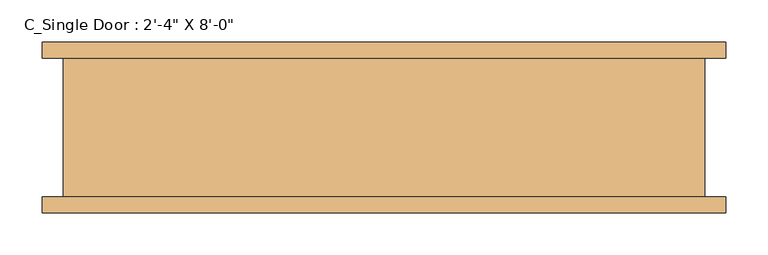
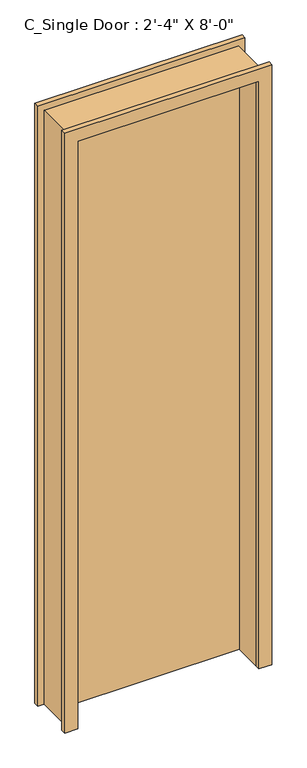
"""IFC4 building model written with IfcOpenShell, lengths in millimetres: door geometry."""

from ifc_helpers import new_model, si_unit, frame, origin, origin_with_axes, place, context, project, spatial, polyline, outline, extrude, source, transform, mapped, element, save


def door_b1a27719(model_context):
    return source(origin(), model_context, "Body", "SweptSolid", [
        extrude(outline(polyline([(355.6, 82.55), (355.6, 31.75), (-355.6, 31.75), (-355.6, 82.55), (355.6, 82.55)])), origin_with_axes(), (0.0, 0.0, 1.0), 2438.4),
        extrude(outline(polyline([(2438.4, -355.6), (2438.4, 355.6), (0.0, 355.6), (0.0, 406.4), (2489.2, 406.4), (2489.2, -406.4), (0.0, -406.4), (0.0, -355.6), (2438.4, -355.6)])), frame((0.0, 82.55, 0.0), z_axis=(0.0, 1.0, 0.0), x_axis=(0.0, 0.0, 1.0)), (0.0, 0.0, 1.0), 19.05),
        extrude(outline(polyline([(2438.4, -355.6), (2438.4, 355.6), (0.0, 355.6), (0.0, 406.4), (2489.2, 406.4), (2489.2, -406.4), (0.0, -406.4), (0.0, -355.6), (2438.4, -355.6)])), frame((0.0, -101.6, 0.0), z_axis=(0.0, 1.0, 0.0), x_axis=(0.0, 0.0, 1.0)), (0.0, 0.0, 1.0), 19.05),
        extrude(outline(polyline([(0.0, -355.6), (2438.4, -355.6), (2438.4, 355.6), (0.0, 355.6), (0.0, 381.0), (2463.8, 381.0), (2463.8, -381.0), (0.0, -381.0), (0.0, -355.6)])), frame((0.0, -82.55, 0.0), z_axis=(0.0, 1.0, 0.0), x_axis=(0.0, 0.0, 1.0)), (0.0, 0.0, 1.0), 165.1),
    ])


if __name__ == "__main__":
    model = new_model("IFC4")
    model_context = context("Model", 3, world=origin())
    ifc_project = project(units=[si_unit("LENGTHUNIT", "METRE", prefix="MILLI")], contexts=[model_context])
    site = spatial("IfcSite", under=ifc_project)
    building = spatial("IfcBuilding", under=site)
    placement = place(None, origin())
    door_shape = door_b1a27719(model_context)
    element("IfcDoor", 1, ObjectType="C_Single Door : 2'-4\" X 8'-0\"", at=placement, inside=building, context=model_context, shape_type="MappedRepresentation", body=[
        mapped(door_shape, transform((0.0, 0.0, 0.0), x_axis=(1.0, 0.0, 0.0), y_axis=(0.0, 1.0, 0.0), z_axis=(0.0, 0.0, 1.0))),
    ])
    save(model, "model.ifc")
